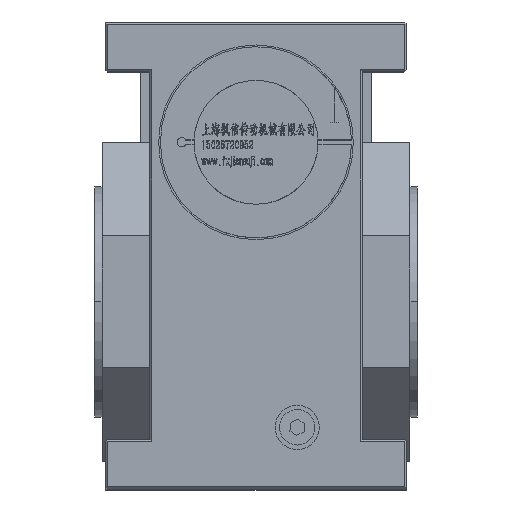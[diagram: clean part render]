
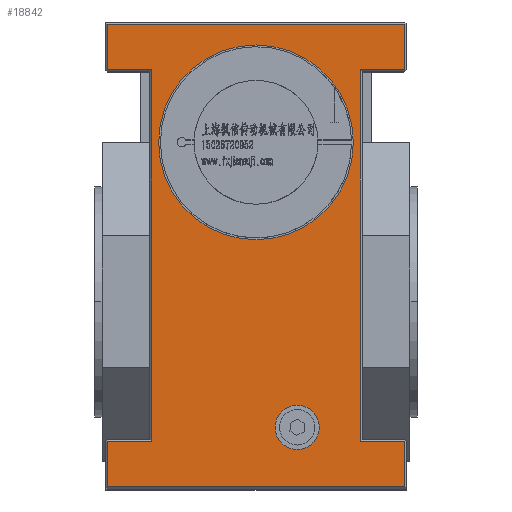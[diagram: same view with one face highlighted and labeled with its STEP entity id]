
A CAD part, top view. The second image highlights one B-rep face of the part: STEP entity #18842.
In plain terms, the highlighted planar face has unit normal (0, 0, 1).
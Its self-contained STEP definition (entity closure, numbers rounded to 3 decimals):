
#910 = DIRECTION ( 'NONE',  ( 1., 0., 0. ) ) ;
#1239 = ORIENTED_EDGE ( 'NONE', *, *, #93339, .F. ) ;
#1971 = EDGE_CURVE ( 'NONE', #52814, #10657, #69930, .T. ) ;
#2166 = DIRECTION ( 'NONE',  ( 0., 0., 1. ) ) ;
#3655 = CARTESIAN_POINT ( 'NONE',  ( -59., -79., 114. ) ) ;
#4379 = CARTESIAN_POINT ( 'NONE',  ( 23.262, -71., 114. ) ) ;
#4380 = CIRCLE ( 'NONE', #78205, 12.5 ) ;
#5710 = LINE ( 'NONE', #40102, #57347 ) ;
#5713 = CARTESIAN_POINT ( 'NONE',  ( -84., 158., 114. ) ) ;
#5993 = CARTESIAN_POINT ( 'NONE',  ( 85., 156.5, 114. ) ) ;
#7445 = CARTESIAN_POINT ( 'NONE',  ( 85., -79., 114. ) ) ;
#8861 = VECTOR ( 'NONE', #64448, 1000. ) ;
#8942 = CARTESIAN_POINT ( 'NONE',  ( 23.262, -71., 114. ) ) ;
#9277 = DIRECTION ( 'NONE',  ( 1., 0., 0. ) ) ;
#9412 = PLANE ( 'NONE',  #35054 ) ;
#10657 = VERTEX_POINT ( 'NONE', #13263 ) ;
#11368 = LINE ( 'NONE', #51689, #30875 ) ;
#11796 = DIRECTION ( 'NONE',  ( 0., 1., 0. ) ) ;
#13263 = CARTESIAN_POINT ( 'NONE',  ( 84., -79., 114. ) ) ;
#14733 = EDGE_CURVE ( 'NONE', #65149, #24396, #72112, .T. ) ;
#14758 = EDGE_CURVE ( 'NONE', #20178, #78297, #30186, .T. ) ;
#14838 = DIRECTION ( 'NONE',  ( 0., -1., 0. ) ) ;
#16908 = VECTOR ( 'NONE', #9277, 1000. ) ;
#17861 = EDGE_CURVE ( 'NONE', #24396, #20178, #5710, .T. ) ;
#18787 = DIRECTION ( 'NONE',  ( 0., 1., 0. ) ) ;
#18842 = ADVANCED_FACE ( 'NONE', ( #105641, #80942, #32553 ), #9412, .F. ) ;
#19934 = EDGE_CURVE ( 'NONE', #99972, #43273, #58486, .T. ) ;
#20178 = VERTEX_POINT ( 'NONE', #89941 ) ;
#20337 = CARTESIAN_POINT ( 'NONE',  ( -59., -78., 114. ) ) ;
#20409 = AXIS2_PLACEMENT_3D ( 'NONE', #50541, #2166, #18787 ) ;
#20532 = CARTESIAN_POINT ( 'NONE',  ( 0., 90., 114. ) ) ;
#21461 = CARTESIAN_POINT ( 'NONE',  ( -59., 131., 114. ) ) ;
#21525 = DIRECTION ( 'NONE',  ( 0., 1., 0. ) ) ;
#23959 = DIRECTION ( 'NONE',  ( 0., 0., -1. ) ) ;
#24396 = VERTEX_POINT ( 'NONE', #73296 ) ;
#24962 = VERTEX_POINT ( 'NONE', #44581 ) ;
#25011 = DIRECTION ( 'NONE',  ( -1., 0., 0. ) ) ;
#25496 = VECTOR ( 'NONE', #11796, 1000. ) ;
#25531 = CARTESIAN_POINT ( 'NONE',  ( 85., 158., 114. ) ) ;
#26124 = DIRECTION ( 'NONE',  ( 0., 0., 1. ) ) ;
#26504 = ORIENTED_EDGE ( 'NONE', *, *, #59391, .T. ) ;
#27746 = LINE ( 'NONE', #101927, #50587 ) ;
#28077 = EDGE_CURVE ( 'NONE', #48491, #102987, #46197, .T. ) ;
#29810 = ORIENTED_EDGE ( 'NONE', *, *, #1971, .T. ) ;
#30062 = ORIENTED_EDGE ( 'NONE', *, *, #14733, .T. ) ;
#30186 = LINE ( 'NONE', #62989, #75891 ) ;
#30360 = VERTEX_POINT ( 'NONE', #3655 ) ;
#30875 = VECTOR ( 'NONE', #84475, 1000. ) ;
#31192 = EDGE_CURVE ( 'NONE', #64658, #93704, #4380, .T. ) ;
#32553 = FACE_OUTER_BOUND ( 'NONE', #103099, .T. ) ;
#32672 = EDGE_LOOP ( 'NONE', ( #65435, #83267 ) ) ;
#35054 = AXIS2_PLACEMENT_3D ( 'NONE', #25531, #23959, #25011 ) ;
#39266 = EDGE_LOOP ( 'NONE', ( #106156, #1239 ) ) ;
#39799 = ORIENTED_EDGE ( 'NONE', *, *, #17861, .T. ) ;
#40102 = CARTESIAN_POINT ( 'NONE',  ( -84., 158., 114. ) ) ;
#40735 = CARTESIAN_POINT ( 'NONE',  ( 10.762, -71., 114. ) ) ;
#42688 = CIRCLE ( 'NONE', #82229, 12.5 ) ;
#43273 = VERTEX_POINT ( 'NONE', #76585 ) ;
#44581 = CARTESIAN_POINT ( 'NONE',  ( -84., -104.5, 114. ) ) ;
#44873 = CARTESIAN_POINT ( 'NONE',  ( 35.762, -71., 114. ) ) ;
#45491 = CARTESIAN_POINT ( 'NONE',  ( 84., -104.5, 114. ) ) ;
#45736 = AXIS2_PLACEMENT_3D ( 'NONE', #20532, #61940, #53332 ) ;
#46197 = CIRCLE ( 'NONE', #20409, 55. ) ;
#48491 = VERTEX_POINT ( 'NONE', #103067 ) ;
#50038 = ORIENTED_EDGE ( 'NONE', *, *, #87607, .T. ) ;
#50541 = CARTESIAN_POINT ( 'NONE',  ( 0., 90., 114. ) ) ;
#50587 = VECTOR ( 'NONE', #84727, 1000. ) ;
#50801 = CARTESIAN_POINT ( 'NONE',  ( -84., -79., 114. ) ) ;
#51689 = CARTESIAN_POINT ( 'NONE',  ( -85., -79., 114. ) ) ;
#52102 = ORIENTED_EDGE ( 'NONE', *, *, #82802, .T. ) ;
#52814 = VERTEX_POINT ( 'NONE', #45491 ) ;
#53332 = DIRECTION ( 'NONE',  ( 0., 1., 0. ) ) ;
#57347 = VECTOR ( 'NONE', #81495, 1000. ) ;
#57952 = DIRECTION ( 'NONE',  ( 1., 0., 0. ) ) ;
#58023 = ORIENTED_EDGE ( 'NONE', *, *, #89426, .T. ) ;
#58486 = LINE ( 'NONE', #66037, #61158 ) ;
#58696 = ORIENTED_EDGE ( 'NONE', *, *, #97611, .T. ) ;
#59391 = EDGE_CURVE ( 'NONE', #43273, #65149, #61280, .T. ) ;
#60699 = DIRECTION ( 'NONE',  ( 0., -1., 0. ) ) ;
#61158 = VECTOR ( 'NONE', #57952, 1000. ) ;
#61280 = LINE ( 'NONE', #69350, #25496 ) ;
#61500 = VECTOR ( 'NONE', #21525, 1000. ) ;
#61940 = DIRECTION ( 'NONE',  ( 0., 0., 1. ) ) ;
#62989 = CARTESIAN_POINT ( 'NONE',  ( -60., 131., 114. ) ) ;
#64448 = DIRECTION ( 'NONE',  ( -1., 0., 0. ) ) ;
#64658 = VERTEX_POINT ( 'NONE', #44873 ) ;
#65149 = VERTEX_POINT ( 'NONE', #80708 ) ;
#65435 = ORIENTED_EDGE ( 'NONE', *, *, #28077, .F. ) ;
#66037 = CARTESIAN_POINT ( 'NONE',  ( 85., 131., 114. ) ) ;
#66479 = EDGE_CURVE ( 'NONE', #78297, #30360, #86447, .T. ) ;
#66977 = VECTOR ( 'NONE', #60699, 1000. ) ;
#69350 = CARTESIAN_POINT ( 'NONE',  ( 84., 156.5, 114. ) ) ;
#69688 = CARTESIAN_POINT ( 'NONE',  ( 55., 90., 114. ) ) ;
#69930 = LINE ( 'NONE', #86030, #61500 ) ;
#70586 = VERTEX_POINT ( 'NONE', #50801 ) ;
#71583 = DIRECTION ( 'NONE',  ( 1., 0., 0. ) ) ;
#72112 = LINE ( 'NONE', #5993, #82798 ) ;
#73296 = CARTESIAN_POINT ( 'NONE',  ( -84., 156.5, 114. ) ) ;
#74843 = VECTOR ( 'NONE', #14838, 1000. ) ;
#75891 = VECTOR ( 'NONE', #71583, 1000. ) ;
#76585 = CARTESIAN_POINT ( 'NONE',  ( 84., 131., 114. ) ) ;
#78205 = AXIS2_PLACEMENT_3D ( 'NONE', #8942, #26124, #910 ) ;
#78297 = VERTEX_POINT ( 'NONE', #21461 ) ;
#79265 = ORIENTED_EDGE ( 'NONE', *, *, #14758, .T. ) ;
#80708 = CARTESIAN_POINT ( 'NONE',  ( 84., 156.5, 114. ) ) ;
#80942 = FACE_BOUND ( 'NONE', #32672, .T. ) ;
#81348 = LINE ( 'NONE', #83439, #16908 ) ;
#81495 = DIRECTION ( 'NONE',  ( 0., -1., 0. ) ) ;
#82229 = AXIS2_PLACEMENT_3D ( 'NONE', #4379, #101659, #102712 ) ;
#82454 = VERTEX_POINT ( 'NONE', #91895 ) ;
#82798 = VECTOR ( 'NONE', #97875, 1000. ) ;
#82802 = EDGE_CURVE ( 'NONE', #10657, #82454, #88570, .T. ) ;
#83267 = ORIENTED_EDGE ( 'NONE', *, *, #90069, .F. ) ;
#83439 = CARTESIAN_POINT ( 'NONE',  ( 85., -104.5, 114. ) ) ;
#83487 = CIRCLE ( 'NONE', #45736, 55. ) ;
#84475 = DIRECTION ( 'NONE',  ( -1., 0., 0. ) ) ;
#84727 = DIRECTION ( 'NONE',  ( 0., 1., 0. ) ) ;
#86030 = CARTESIAN_POINT ( 'NONE',  ( 84., -78., 114. ) ) ;
#86447 = LINE ( 'NONE', #20337, #66977 ) ;
#87607 = EDGE_CURVE ( 'NONE', #82454, #99972, #27746, .T. ) ;
#88378 = ORIENTED_EDGE ( 'NONE', *, *, #66479, .T. ) ;
#88456 = LINE ( 'NONE', #5713, #74843 ) ;
#88570 = LINE ( 'NONE', #7445, #8861 ) ;
#89426 = EDGE_CURVE ( 'NONE', #70586, #24962, #88456, .T. ) ;
#89941 = CARTESIAN_POINT ( 'NONE',  ( -84., 131., 114. ) ) ;
#90069 = EDGE_CURVE ( 'NONE', #102987, #48491, #83487, .T. ) ;
#91555 = CARTESIAN_POINT ( 'NONE',  ( 59., 131., 114. ) ) ;
#91895 = CARTESIAN_POINT ( 'NONE',  ( 59., -79., 114. ) ) ;
#93037 = ORIENTED_EDGE ( 'NONE', *, *, #19934, .T. ) ;
#93339 = EDGE_CURVE ( 'NONE', #93704, #64658, #42688, .T. ) ;
#93704 = VERTEX_POINT ( 'NONE', #40735 ) ;
#95008 = ORIENTED_EDGE ( 'NONE', *, *, #95452, .T. ) ;
#95452 = EDGE_CURVE ( 'NONE', #24962, #52814, #81348, .T. ) ;
#97611 = EDGE_CURVE ( 'NONE', #30360, #70586, #11368, .T. ) ;
#97875 = DIRECTION ( 'NONE',  ( -1., 0., 0. ) ) ;
#99972 = VERTEX_POINT ( 'NONE', #91555 ) ;
#101659 = DIRECTION ( 'NONE',  ( 0., 0., 1. ) ) ;
#101927 = CARTESIAN_POINT ( 'NONE',  ( 59., 130., 114. ) ) ;
#102712 = DIRECTION ( 'NONE',  ( 1., 0., 0. ) ) ;
#102987 = VERTEX_POINT ( 'NONE', #69688 ) ;
#103067 = CARTESIAN_POINT ( 'NONE',  ( -55., 90., 114. ) ) ;
#103099 = EDGE_LOOP ( 'NONE', ( #93037, #26504, #30062, #39799, #79265, #88378, #58696, #58023, #95008, #29810, #52102, #50038 ) ) ;
#105641 = FACE_BOUND ( 'NONE', #39266, .T. ) ;
#106156 = ORIENTED_EDGE ( 'NONE', *, *, #31192, .F. ) ;
